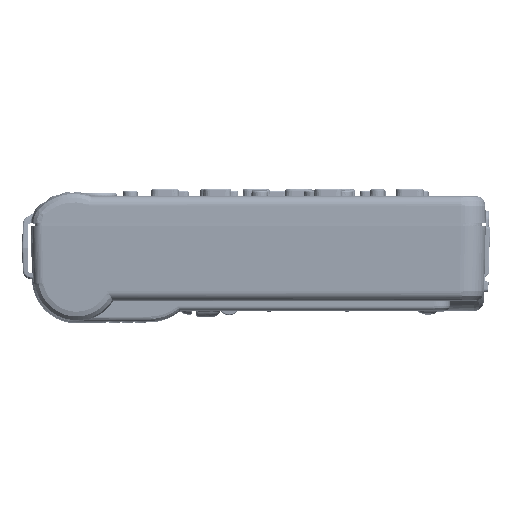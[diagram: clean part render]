
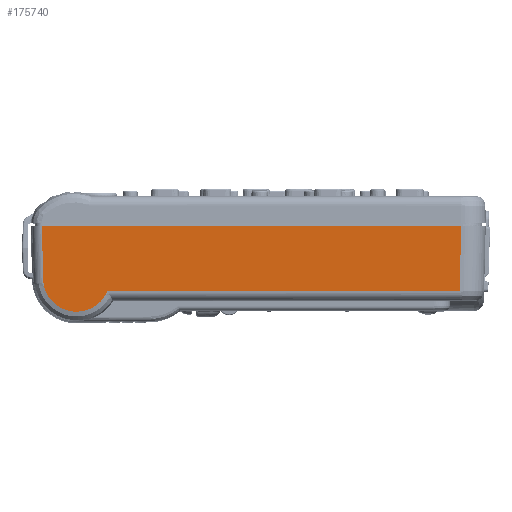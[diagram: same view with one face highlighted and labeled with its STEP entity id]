
A CAD part, top view. The second image highlights one B-rep face of the part: STEP entity #175740.
In plain terms, the highlighted planar face has unit normal (0, -0.026, 1).
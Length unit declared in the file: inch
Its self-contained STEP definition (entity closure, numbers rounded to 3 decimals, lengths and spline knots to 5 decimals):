
#134246=DIRECTION('',(0.026,-0.999,-0.026));
#134247=VECTOR('',#134246,0.86826);
#134248=CARTESIAN_POINT('',(0.98626,-0.05,-0.71131));
#134249=LINE('',#134248,#134247);
#134254=DIRECTION('',(-1.,0.,0.));
#134255=VECTOR('',#134254,6.42756);
#134256=CARTESIAN_POINT('',(7.41382,-0.05,-0.71131));
#134257=LINE('',#134256,#134255);
#134262=DIRECTION('',(-0.026,-0.999,
-0.026));
#134263=VECTOR('',#134262,1.00461);
#134264=CARTESIAN_POINT('',(7.41382,-0.05,-0.71131));
#134265=LINE('',#134264,#134263);
#134266=CARTESIAN_POINT('',(7.38753,-1.05393,
-0.7376));
#134353=DIRECTION('',(-1.,0.,0.));
#134354=VECTOR('',#134353,5.39817);
#134355=CARTESIAN_POINT('',(7.38753,-1.05393,
-0.7376));
#134356=LINE('',#134355,#134354);
#134411=CARTESIAN_POINT('',(1.00898,-0.91766,
-0.73403));
#134412=CARTESIAN_POINT('',(1.01027,-0.92799,
-0.7343));
#134413=CARTESIAN_POINT('',(1.01348,-0.94851,
-0.73484));
#134414=CARTESIAN_POINT('',(1.02017,-0.97899,
-0.73564));
#134415=CARTESIAN_POINT('',(1.02869,-1.009,
-0.73642));
#134416=CARTESIAN_POINT('',(1.03902,-1.03843,
-0.73719));
#134417=CARTESIAN_POINT('',(1.05113,-1.06718,
-0.73795));
#134418=CARTESIAN_POINT('',(1.06496,-1.09515,
-0.73868));
#134419=CARTESIAN_POINT('',(1.08046,-1.12222,
-0.73939));
#134420=CARTESIAN_POINT('',(1.09759,-1.14829,
-0.74007));
#134421=CARTESIAN_POINT('',(1.11626,-1.17328,
-0.74072));
#134422=CARTESIAN_POINT('',(1.13642,-1.19709,
-0.74135));
#134423=CARTESIAN_POINT('',(1.15799,-1.21962,
-0.74194));
#134424=CARTESIAN_POINT('',(1.18089,-1.24081,
-0.74249));
#134425=CARTESIAN_POINT('',(1.20504,-1.26056,
-0.74301));
#134426=CARTESIAN_POINT('',(1.23034,-1.2788,
-0.74349));
#134427=CARTESIAN_POINT('',(1.2567,-1.29547,
-0.74392));
#134428=CARTESIAN_POINT('',(1.28403,-1.31051,
-0.74432));
#134429=CARTESIAN_POINT('',(1.31222,-1.32386,
-0.74467));
#134430=CARTESIAN_POINT('',(1.34117,-1.33547,
-0.74497));
#134431=CARTESIAN_POINT('',(1.37077,-1.3453,
-0.74523));
#134432=CARTESIAN_POINT('',(1.40092,-1.35332,
-0.74544));
#134433=CARTESIAN_POINT('',(1.43149,-1.35948,
-0.7456));
#134434=CARTESIAN_POINT('',(1.46239,-1.36377,
-0.74571));
#134435=CARTESIAN_POINT('',(1.49349,-1.36618,
-0.74577));
#134436=CARTESIAN_POINT('',(1.52467,-1.36669,
-0.74579));
#134437=CARTESIAN_POINT('',(1.55583,-1.36531,
-0.74575));
#134438=CARTESIAN_POINT('',(1.58685,-1.36203,
-0.74567));
#134439=CARTESIAN_POINT('',(1.61761,-1.35688,
-0.74553));
#134440=CARTESIAN_POINT('',(1.64801,-1.34986,
-0.74535));
#134441=CARTESIAN_POINT('',(1.67791,-1.34101,
-0.74512));
#134442=CARTESIAN_POINT('',(1.70723,-1.33035,
-0.74484));
#134443=CARTESIAN_POINT('',(1.73585,-1.31794,
-0.74451));
#134444=CARTESIAN_POINT('',(1.76365,-1.3038,
-0.74414));
#134445=CARTESIAN_POINT('',(1.79055,-1.28801,
-0.74373));
#134446=CARTESIAN_POINT('',(1.81644,-1.2706,
-0.74327));
#134447=CARTESIAN_POINT('',(1.84122,-1.25166,
-0.74278));
#134448=CARTESIAN_POINT('',(1.8648,-1.23124,
-0.74224));
#134449=CARTESIAN_POINT('',(1.8871,-1.20942,
-0.74167));
#134450=CARTESIAN_POINT('',(1.90803,-1.18629,
-0.74106));
#134451=CARTESIAN_POINT('',(1.92752,-1.16193,
-0.74043));
#134452=CARTESIAN_POINT('',(1.94549,-1.13643,
-0.73976));
#134453=CARTESIAN_POINT('',(1.96187,-1.10989,
-0.73906));
#134454=CARTESIAN_POINT('',(1.97661,-1.08239,
-0.73834));
#134455=CARTESIAN_POINT('',(1.9853,-1.06351,
-0.73785));
#134456=CARTESIAN_POINT('',(1.98936,-1.05393,
-0.7376));
#156781=VERTEX_POINT('',#134266);
#156783=CARTESIAN_POINT('',(1.98936,-1.05393,
-0.7376));
#156784=VERTEX_POINT('',#156783);
#156968=CARTESIAN_POINT('',(1.00898,-0.91766,
-0.73403));
#156970=VERTEX_POINT('',#156968);
#158325=CARTESIAN_POINT('',(7.41382,-0.05,-0.71131));
#158326=CARTESIAN_POINT('',(0.98626,-0.05,-0.71131));
#158327=VERTEX_POINT('',#158325);
#158328=VERTEX_POINT('',#158326);
#175725=CARTESIAN_POINT('',(7.79,0.,-0.71));
#175726=DIRECTION('',(0.,-0.026,1.));
#175727=DIRECTION('',(-1.,0.,0.));
#175728=AXIS2_PLACEMENT_3D('',#175725,#175726,#175727);
#175729=PLANE('',#175728);
#175730=ORIENTED_EDGE('',*,*,#163752,.F.);
#175732=ORIENTED_EDGE('',*,*,#175731,.T.);
#175734=ORIENTED_EDGE('',*,*,#175733,.T.);
#175736=ORIENTED_EDGE('',*,*,#175735,.F.);
#175737=ORIENTED_EDGE('',*,*,#175717,.F.);
#175738=EDGE_LOOP('',(#175730,#175732,#175734,#175736,#175737));
#175739=FACE_OUTER_BOUND('',#175738,.F.);
#175740=ADVANCED_FACE('',(#175739),#175729,.T.);
#134457=B_SPLINE_CURVE_WITH_KNOTS('',3,(#134411,#134412,#134413,#134414,#134415,
#134416,#134417,#134418,#134419,#134420,#134421,#134422,#134423,#134424,#134425,
#134426,#134427,#134428,#134429,#134430,#134431,#134432,#134433,#134434,#134435,
#134436,#134437,#134438,#134439,#134440,#134441,#134442,#134443,#134444,#134445,
#134446,#134447,#134448,#134449,#134450,#134451,#134452,#134453,#134454,#134455,
#134456),.UNSPECIFIED.,.F.,.F.,(4,1,1,1,1,1,1,1,1,1,1,1,1,1,1,1,1,1,1,1,1,1,1,1,
1,1,1,1,1,1,1,1,1,1,1,1,1,1,1,1,1,1,1,4),(0.,0.02326,
0.04651,0.06977,0.09302,0.11628,
0.13953,0.16279,0.18605,0.2093,
0.23256,0.25581,0.27907,0.30233,
0.32558,0.34884,0.37209,0.39535,
0.4186,0.44186,0.46512,0.48837,
0.51163,0.53488,0.55814,0.5814,
0.60465,0.62791,0.65116,0.67442,
0.69767,0.72093,0.74419,0.76744,
0.7907,0.81395,0.83721,0.86047,
0.88372,0.90698,0.93023,0.95349,
0.97674,1.),.UNSPECIFIED.);
#163752=EDGE_CURVE('',#158327,#158328,#134257,.T.);
#175717=EDGE_CURVE('',#158328,#156970,#134249,.T.);
#175731=EDGE_CURVE('',#158327,#156781,#134265,.T.);
#175733=EDGE_CURVE('',#156781,#156784,#134356,.T.);
#175735=EDGE_CURVE('',#156970,#156784,#134457,.T.);
